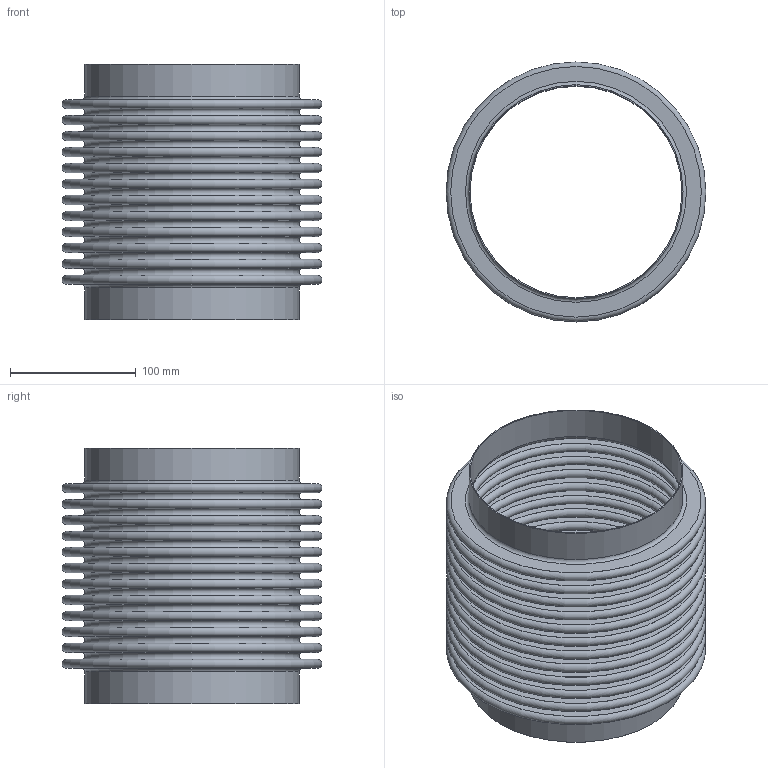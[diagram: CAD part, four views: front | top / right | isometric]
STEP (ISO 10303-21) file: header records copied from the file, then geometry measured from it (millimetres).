
FILE_DESCRIPTION(/* description */ ('STOCK BELLOWS: U.S-6-12-150L, 6.625 I.D., 8.125 O.D., 1 PLY, 20 GA (0.036 THICK), 12 CONS., 0.500 PITCH, 1.000 TANGENT. '),/* implementation_level */ '2;1');
FILE_NAME(/* name */ 'STOCK BELLOW - US-6-12-150L.stp',/* time_stamp */ '2026-07-21T13:02:24-05:00',/* author */ ('KennethB'),/* organization */ (''),/* preprocessor_version */ 'ST-DEVELOPER v20.1',/* originating_system */ 'Autodesk Inventor 2026',/* authorisation */ '');
FILE_SCHEMA (('AUTOMOTIVE_DESIGN { 1 0 10303 214 3 1 1 }'));
Length unit declared in the file: inch
Products named in the file (1): STOCK BELLOW - US-6-12-150L
Bounding box: 206.38 x 206.38 x 203.2 mm (x, y, z)
Volume: 305721.7 mm3; surface area: 671598.7 mm2
Topology: 3 solids, 3 shells, 108 faces, 162 edges, 109 vertices
Faces by surface type: plane 54, torus 50, cylinder 4
Full cylindrical faces by diameter (mm): 168.275 x2, 170.104 x2
Entity records: 2550 total; most frequent: DIRECTION 538, CARTESIAN_POINT 380, ORIENTED_EDGE 324, AXIS2_PLACEMENT_3D 267, EDGE_LOOP 162, EDGE_CURVE 162, CIRCLE 158, FACE_OUTER_BOUND 108
